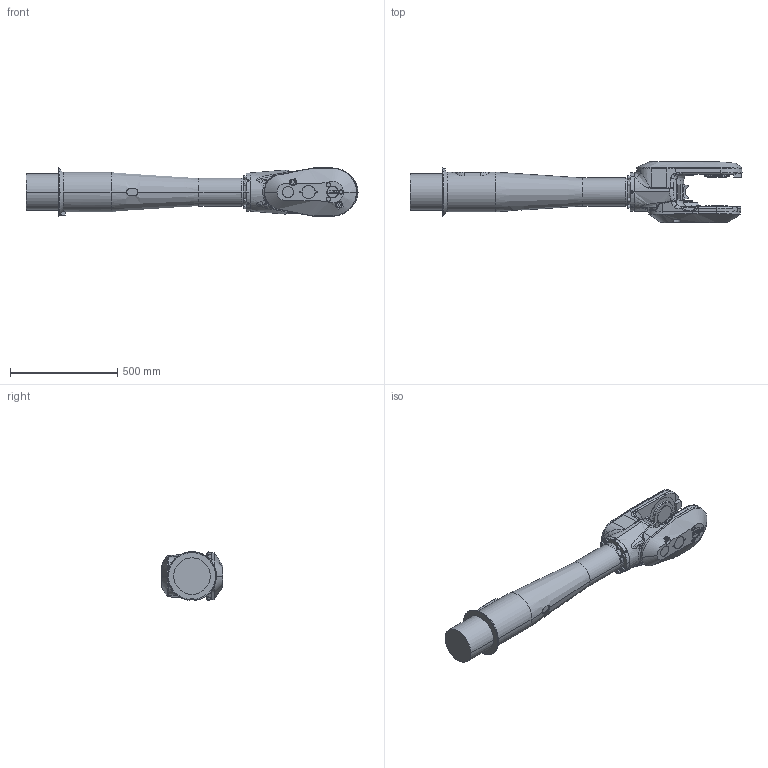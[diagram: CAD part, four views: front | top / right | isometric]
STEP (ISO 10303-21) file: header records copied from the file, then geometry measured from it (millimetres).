
FILE_DESCRIPTION (( 'STEP AP214' ), '1' );
FILE_NAME ('IRB5710-LID_70kg-270_OmniCore_rev00_LINK04_CAD.step', '2025-07-07T14:09:52', ( '' ), ( '' ), 'SwSTEP 2.0', 'SolidWorks 2024', '' );
FILE_SCHEMA (( 'AUTOMOTIVE_DESIGN' ));
Length unit declared in the file: millimetre
Products named in the file (1): IRB5710-LID_70kg-270_OmniCore_rev00_LINK04_CAD
Bounding box: 1548.48 x 285 x 227.17 mm (x, y, z)
Volume: 37054184.2 mm3; surface area: 1150035.6 mm2
Topology: 1 solids, 6 shells, 815 faces, 2025 edges, 1272 vertices
Faces by surface type: plane 369, cylinder 180, cone 136, bspline 115, torus 15
Entity records: 39880 total; most frequent: CARTESIAN_POINT 20310, ORIENTED_EDGE 3990, DIRECTION 3331, EDGE_CURVE 1995, VERTEX_POINT 1272, AXIS2_PLACEMENT_3D 1169, VECTOR 993, LINE 993
